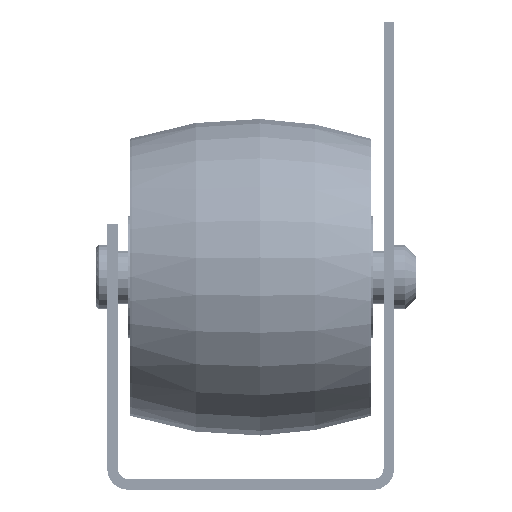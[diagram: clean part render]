
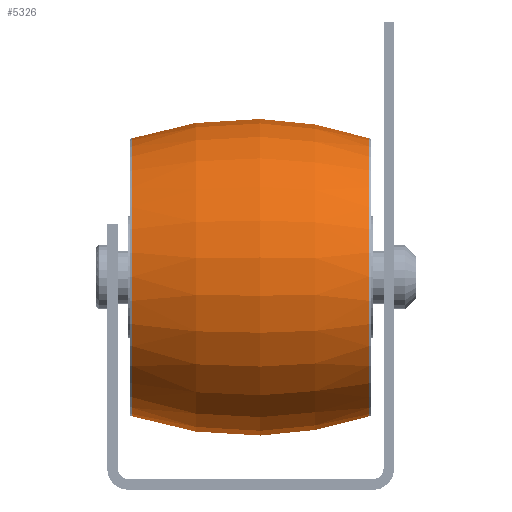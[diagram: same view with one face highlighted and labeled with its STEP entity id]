
A CAD part, front view. The second image highlights one B-rep face of the part: STEP entity #5326.
In plain terms, the highlighted toroidal (fillet/blend) face has major radius 20.11 mm and minor radius 35 mm.
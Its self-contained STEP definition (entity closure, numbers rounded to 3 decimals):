
#20=DEGENERATE_TOROIDAL_SURFACE('',#6024,20.11,35.,.F.);
#2005=ORIENTED_EDGE('',*,*,#2567,.F.);
#2006=ORIENTED_EDGE('',*,*,#2568,.F.);
#2567=EDGE_CURVE('',#3044,#3044,#3441,.T.);
#2568=EDGE_CURVE('',#3045,#3045,#3442,.T.);
#3044=VERTEX_POINT('',#9128);
#3045=VERTEX_POINT('',#9131);
#3441=CIRCLE('',#6021,13.08);
#3442=CIRCLE('',#6023,13.08);
#4164=EDGE_LOOP('',(#2005));
#4165=EDGE_LOOP('',(#2006));
#4896=FACE_BOUND('',#4164,.T.);
#4897=FACE_BOUND('',#4165,.T.);
#5326=ADVANCED_FACE('',(#4896,#4897),#20,.F.);
#6021=AXIS2_PLACEMENT_3D('',#9127,#7585,#7586);
#6023=AXIS2_PLACEMENT_3D('',#9130,#7589,#7590);
#6024=AXIS2_PLACEMENT_3D('',#9132,#7591,#7592);
#7585=DIRECTION('',(1.,0.,0.));
#7586=DIRECTION('',(0.,0.,-1.));
#7589=DIRECTION('',(-1.,0.,0.));
#7590=DIRECTION('',(0.,0.,1.));
#7591=DIRECTION('',(1.,0.,0.));
#7592=DIRECTION('',(0.,0.,-1.));
#9127=CARTESIAN_POINT('',(-0.388,0.,0.));
#9128=CARTESIAN_POINT('',(-0.388,0.,-13.08));
#9130=CARTESIAN_POINT('',(-22.612,0.,0.));
#9131=CARTESIAN_POINT('',(-22.612,0.,13.08));
#9132=CARTESIAN_POINT('',(-11.5,0.,0.));
